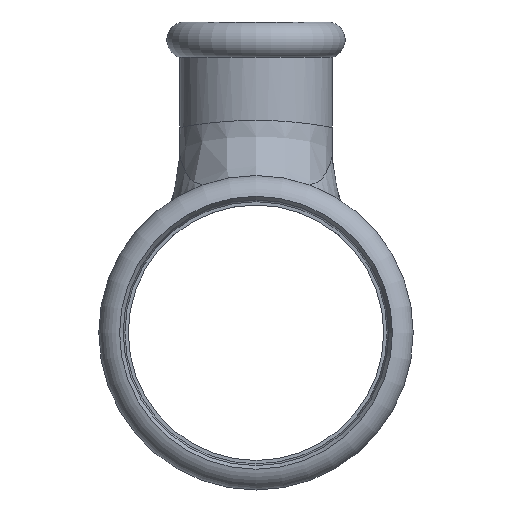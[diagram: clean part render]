
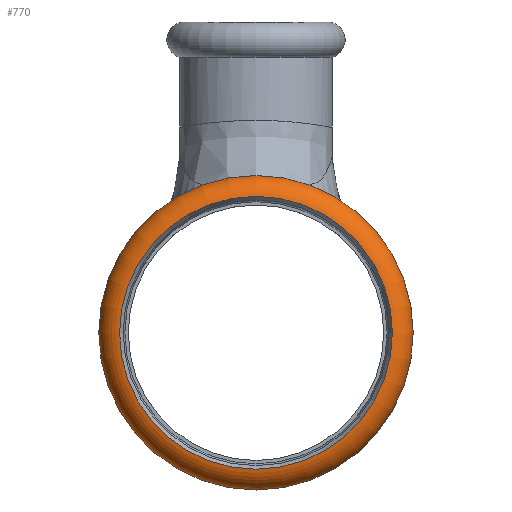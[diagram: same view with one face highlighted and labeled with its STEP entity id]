
A CAD part, left-side view. The second image highlights one B-rep face of the part: STEP entity #770.
In plain terms, the highlighted toroidal (fillet/blend) face has major radius 27.434 mm and minor radius 4.958 mm.
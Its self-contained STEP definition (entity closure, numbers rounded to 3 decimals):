
#125=FACE_OUTER_BOUND('',#164,.T.);
#164=EDGE_LOOP('',(#526,#527,#528,#529,#530,#531,#532,#533));
#221=CIRCLE('',#847,28.75);
#222=CIRCLE('',#848,28.75);
#223=CIRCLE('',#849,4.958);
#224=CIRCLE('',#850,28.1);
#225=CIRCLE('',#851,28.1);
#226=CIRCLE('',#852,28.1);
#227=CIRCLE('',#853,28.75);
#292=VERTEX_POINT('',#1182);
#293=VERTEX_POINT('',#1183);
#294=VERTEX_POINT('',#1185);
#295=VERTEX_POINT('',#1187);
#296=VERTEX_POINT('',#1189);
#297=VERTEX_POINT('',#1191);
#389=EDGE_CURVE('',#292,#293,#221,.T.);
#390=EDGE_CURVE('',#294,#292,#222,.T.);
#391=EDGE_CURVE('',#294,#295,#223,.T.);
#392=EDGE_CURVE('',#295,#296,#224,.T.);
#393=EDGE_CURVE('',#296,#297,#225,.T.);
#394=EDGE_CURVE('',#297,#295,#226,.T.);
#395=EDGE_CURVE('',#293,#294,#227,.T.);
#526=ORIENTED_EDGE('',*,*,#389,.F.);
#527=ORIENTED_EDGE('',*,*,#390,.F.);
#528=ORIENTED_EDGE('',*,*,#391,.T.);
#529=ORIENTED_EDGE('',*,*,#392,.T.);
#530=ORIENTED_EDGE('',*,*,#393,.T.);
#531=ORIENTED_EDGE('',*,*,#394,.T.);
#532=ORIENTED_EDGE('',*,*,#391,.F.);
#533=ORIENTED_EDGE('',*,*,#395,.F.);
#759=TOROIDAL_SURFACE('',#846,27.434,4.958);
#770=ADVANCED_FACE('',(#125),#759,.T.);
#846=AXIS2_PLACEMENT_3D('',#1181,#971,#972);
#847=AXIS2_PLACEMENT_3D('',#1184,#973,#974);
#848=AXIS2_PLACEMENT_3D('',#1186,#975,#976);
#849=AXIS2_PLACEMENT_3D('',#1188,#977,#978);
#850=AXIS2_PLACEMENT_3D('',#1190,#979,#980);
#851=AXIS2_PLACEMENT_3D('',#1192,#981,#982);
#852=AXIS2_PLACEMENT_3D('',#1193,#983,#984);
#853=AXIS2_PLACEMENT_3D('',#1194,#985,#986);
#971=DIRECTION('center_axis',(1.,0.,0.));
#972=DIRECTION('ref_axis',(0.,0.,1.));
#973=DIRECTION('center_axis',(1.,0.,0.));
#974=DIRECTION('ref_axis',(0.,1.,0.));
#975=DIRECTION('center_axis',(1.,0.,0.));
#976=DIRECTION('ref_axis',(0.,1.,0.));
#977=DIRECTION('center_axis',(0.,1.,0.));
#978=DIRECTION('ref_axis',(0.,0.,-1.));
#979=DIRECTION('center_axis',(1.,0.,0.));
#980=DIRECTION('ref_axis',(0.,1.,0.));
#981=DIRECTION('center_axis',(1.,0.,0.));
#982=DIRECTION('ref_axis',(0.,1.,0.));
#983=DIRECTION('center_axis',(1.,0.,0.));
#984=DIRECTION('ref_axis',(0.,1.,0.));
#985=DIRECTION('center_axis',(1.,0.,0.));
#986=DIRECTION('ref_axis',(0.,1.,0.));
#1181=CARTESIAN_POINT('Origin',(-64.087,0.,0.));
#1182=CARTESIAN_POINT('',(-59.307,28.75,0.));
#1183=CARTESIAN_POINT('',(-59.307,-28.75,0.));
#1184=CARTESIAN_POINT('Origin',(-59.307,0.,0.));
#1185=CARTESIAN_POINT('',(-59.307,0.,-28.75));
#1186=CARTESIAN_POINT('Origin',(-59.307,0.,0.));
#1187=CARTESIAN_POINT('',(-69.,0.,-28.1));
#1188=CARTESIAN_POINT('Origin',(-64.087,0.,
-27.434));
#1189=CARTESIAN_POINT('',(-69.,28.1,0.));
#1190=CARTESIAN_POINT('Origin',(-69.,0.,0.));
#1191=CARTESIAN_POINT('',(-69.,-28.1,0.));
#1192=CARTESIAN_POINT('Origin',(-69.,0.,0.));
#1193=CARTESIAN_POINT('Origin',(-69.,0.,0.));
#1194=CARTESIAN_POINT('Origin',(-59.307,0.,0.));
